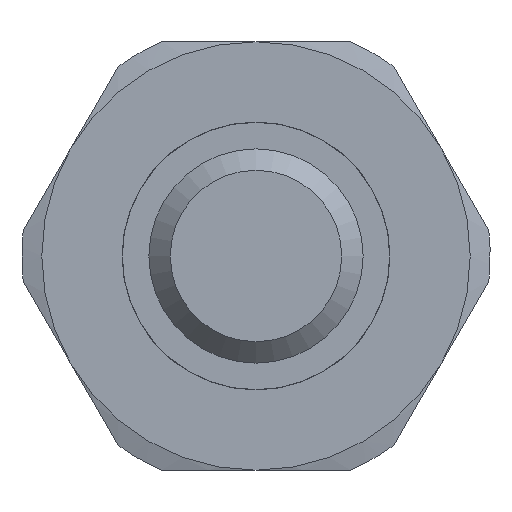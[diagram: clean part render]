
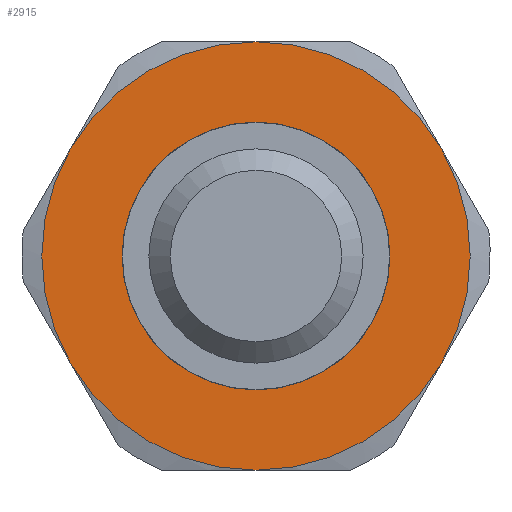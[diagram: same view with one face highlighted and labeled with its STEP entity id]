
A CAD part, left-side view. The second image highlights one B-rep face of the part: STEP entity #2915.
In plain terms, the highlighted planar face has unit normal (-1, 0, 0).
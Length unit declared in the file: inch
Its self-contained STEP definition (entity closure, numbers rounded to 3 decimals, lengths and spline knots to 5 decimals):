
#490=FACE_BOUND('',#848,.T.);
#625=FACE_OUTER_BOUND('',#847,.T.);
#847=EDGE_LOOP('',(#2504,#2505,#2506,#2507,#2508,#2509));
#848=EDGE_LOOP('',(#2510,#2511));
#1076=CIRCLE('',#3302,0.5);
#1077=CIRCLE('',#3303,0.5);
#1078=CIRCLE('',#3304,0.5);
#1079=CIRCLE('',#3305,0.5);
#1080=CIRCLE('',#3306,0.5);
#1081=CIRCLE('',#3307,0.5);
#1082=CIRCLE('',#3308,0.3125);
#1083=CIRCLE('',#3309,0.3125);
#1371=VERTEX_POINT('',#6048);
#1372=VERTEX_POINT('',#6049);
#1373=VERTEX_POINT('',#6051);
#1374=VERTEX_POINT('',#6053);
#1375=VERTEX_POINT('',#6055);
#1376=VERTEX_POINT('',#6057);
#1377=VERTEX_POINT('',#6060);
#1378=VERTEX_POINT('',#6061);
#1760=EDGE_CURVE('',#1371,#1372,#1076,.T.);
#1761=EDGE_CURVE('',#1372,#1373,#1077,.T.);
#1762=EDGE_CURVE('',#1373,#1374,#1078,.T.);
#1763=EDGE_CURVE('',#1374,#1375,#1079,.T.);
#1764=EDGE_CURVE('',#1375,#1376,#1080,.T.);
#1765=EDGE_CURVE('',#1376,#1371,#1081,.T.);
#1766=EDGE_CURVE('',#1377,#1378,#1082,.T.);
#1767=EDGE_CURVE('',#1378,#1377,#1083,.T.);
#2504=ORIENTED_EDGE('',*,*,#1760,.T.);
#2505=ORIENTED_EDGE('',*,*,#1761,.T.);
#2506=ORIENTED_EDGE('',*,*,#1762,.T.);
#2507=ORIENTED_EDGE('',*,*,#1763,.T.);
#2508=ORIENTED_EDGE('',*,*,#1764,.T.);
#2509=ORIENTED_EDGE('',*,*,#1765,.T.);
#2510=ORIENTED_EDGE('',*,*,#1766,.F.);
#2511=ORIENTED_EDGE('',*,*,#1767,.F.);
#2773=PLANE('',#3301);
#2915=ADVANCED_FACE('',(#625,#490),#2773,.T.);
#3301=AXIS2_PLACEMENT_3D('',#6047,#4105,#4106);
#3302=AXIS2_PLACEMENT_3D('',#6050,#4107,#4108);
#3303=AXIS2_PLACEMENT_3D('',#6052,#4109,#4110);
#3304=AXIS2_PLACEMENT_3D('',#6054,#4111,#4112);
#3305=AXIS2_PLACEMENT_3D('',#6056,#4113,#4114);
#3306=AXIS2_PLACEMENT_3D('',#6058,#4115,#4116);
#3307=AXIS2_PLACEMENT_3D('',#6059,#4117,#4118);
#3308=AXIS2_PLACEMENT_3D('',#6062,#4119,#4120);
#3309=AXIS2_PLACEMENT_3D('',#6063,#4121,#4122);
#4105=DIRECTION('center_axis',(-1.,0.,0.));
#4106=DIRECTION('ref_axis',(0.,0.,-1.));
#4107=DIRECTION('center_axis',(-1.,0.,0.));
#4108=DIRECTION('ref_axis',(0.,0.,-1.));
#4109=DIRECTION('center_axis',(-1.,0.,0.));
#4110=DIRECTION('ref_axis',(0.,0.,-1.));
#4111=DIRECTION('center_axis',(-1.,0.,0.));
#4112=DIRECTION('ref_axis',(0.,0.,-1.));
#4113=DIRECTION('center_axis',(-1.,0.,0.));
#4114=DIRECTION('ref_axis',(0.,0.,-1.));
#4115=DIRECTION('center_axis',(-1.,0.,0.));
#4116=DIRECTION('ref_axis',(0.,0.,-1.));
#4117=DIRECTION('center_axis',(-1.,0.,0.));
#4118=DIRECTION('ref_axis',(0.,0.,-1.));
#4119=DIRECTION('center_axis',(-1.,0.,0.));
#4120=DIRECTION('ref_axis',(0.,-1.,0.));
#4121=DIRECTION('center_axis',(-1.,0.,0.));
#4122=DIRECTION('ref_axis',(0.,-1.,0.));
#6047=CARTESIAN_POINT('Origin',(-0.49354,0.,0.));
#6048=CARTESIAN_POINT('',(-0.49354,0.43301,0.25));
#6049=CARTESIAN_POINT('',(-0.49354,0.43301,-0.25));
#6050=CARTESIAN_POINT('Origin',(-0.49354,0.,0.));
#6051=CARTESIAN_POINT('',(-0.49354,0.,-0.5));
#6052=CARTESIAN_POINT('Origin',(-0.49354,0.,0.));
#6053=CARTESIAN_POINT('',(-0.49354,-0.43301,-0.25));
#6054=CARTESIAN_POINT('Origin',(-0.49354,0.,0.));
#6055=CARTESIAN_POINT('',(-0.49354,-0.43301,0.25));
#6056=CARTESIAN_POINT('Origin',(-0.49354,0.,0.));
#6057=CARTESIAN_POINT('',(-0.49354,0.,0.5));
#6058=CARTESIAN_POINT('Origin',(-0.49354,0.,0.));
#6059=CARTESIAN_POINT('Origin',(-0.49354,0.,0.));
#6060=CARTESIAN_POINT('',(-0.49354,-0.3125,0.));
#6061=CARTESIAN_POINT('',(-0.49354,0.3125,0.));
#6062=CARTESIAN_POINT('Origin',(-0.49354,0.,0.));
#6063=CARTESIAN_POINT('Origin',(-0.49354,0.,0.));
